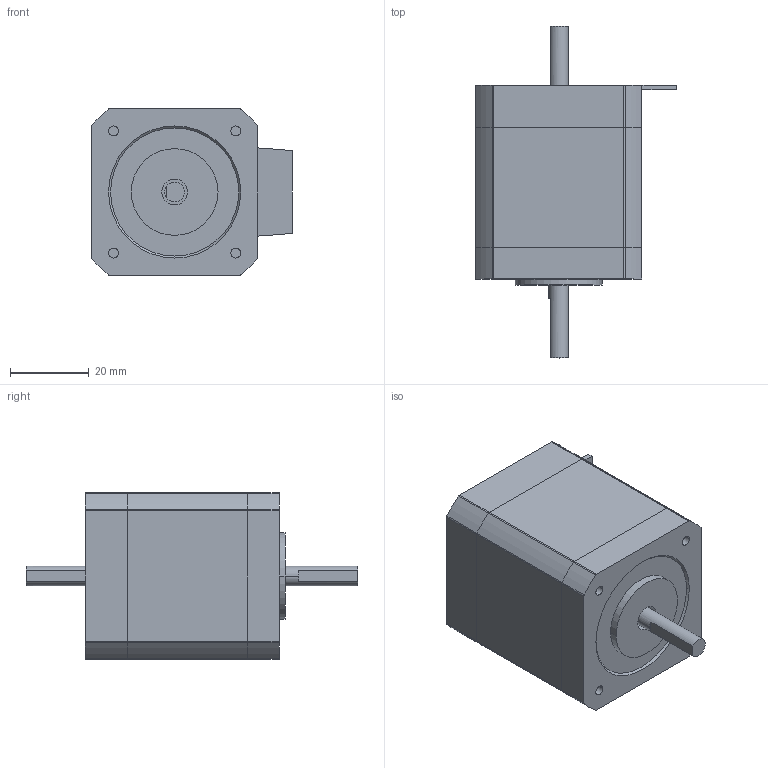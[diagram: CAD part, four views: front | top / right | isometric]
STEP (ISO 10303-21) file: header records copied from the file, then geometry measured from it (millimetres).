
FILE_DESCRIPTION (( 'STEP AP203' ), '1' );
FILE_NAME ('42CM04-D V3.0.STEP', '2026-09-09T07:48:19', ( 'YOS' ), ( 'MS' ), 'SwSTEP 2.0', 'SolidWorks 2023', '' );
FILE_SCHEMA (( 'CONFIG_CONTROL_DESIGN' ));
Length unit declared in the file: millimetre
Products named in the file (5): 42五相前端盖（出轴18.5）; 42CM04-D V3.0; 42五相定子-H30.5; 42五相后端盖（出轴15）; cross recessed small pan head screws gb_GB_CROSS_SCREWS_TYPE3 M3X30-30-S
Assembly tree (7 placements, depth 2):
  42CM04-D V3.0
    42五相定子-H30.5
    42五相后端盖（出轴15）
    42五相前端盖（出轴18.5）
    cross recessed small pan head screws gb_GB_CROSS_SCREWS_TYPE3 M3X30-30-S  x4
Bounding box: 50.98 x 84.2 x 42.18 mm (x, y, z)
Volume: 84145 mm3; surface area: 24163.5 mm2
Topology: 9 solids, 9 shells, 2418 faces, 4976 edges, 2586 vertices
Faces by surface type: cone 1466, cylinder 838, plane 106, sphere 8
Entity records: 19109 total; most frequent: DIRECTION 3646, CARTESIAN_POINT 3029, ORIENTED_EDGE 2980, EDGE_CURVE 1490, AXIS2_PLACEMENT_3D 1451, VERTEX_POINT 810, LINE 744, VECTOR 744
